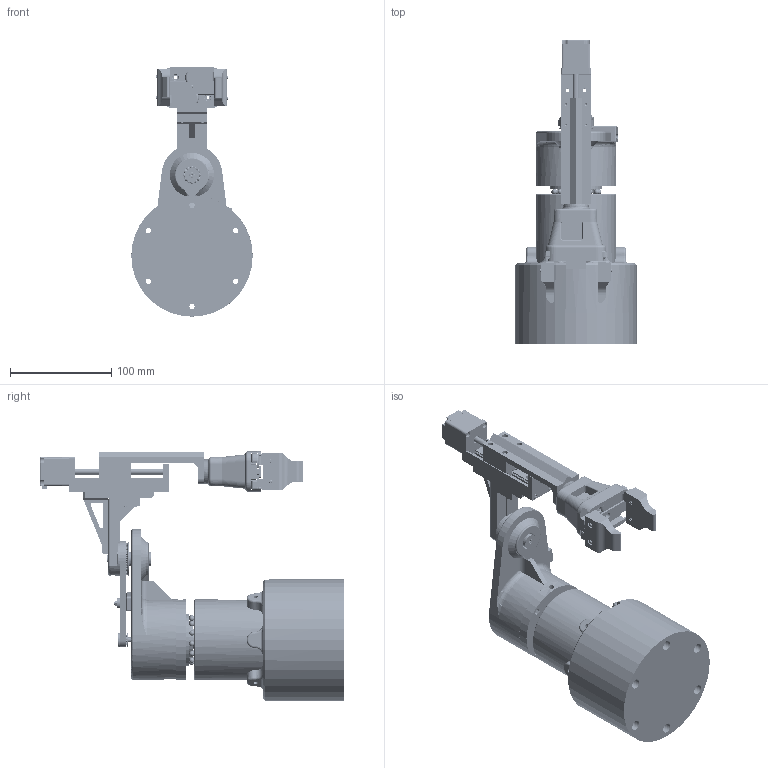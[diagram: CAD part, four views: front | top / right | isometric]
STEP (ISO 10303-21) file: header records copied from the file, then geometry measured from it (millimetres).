
FILE_DESCRIPTION(/* description */ (''),/* implementation_level */ '2;1');
FILE_NAME(/* name */ 'Assieme_scara_nema.stp',/* time_stamp */ '2025-12-08T08:28:22+01:00',/* author */ ('R5800u'),/* organization */ (''),/* preprocessor_version */ 'ST-DEVELOPER v20',/* originating_system */ 'Autodesk Inventor 2025',/* authorisation */ '');
FILE_SCHEMA (('AUTOMOTIVE_DESIGN { 1 0 10303 214 3 1 1 }'));
Products named in the file (61): Assieme_scara_nema; NEMA 17HS4401S-PG518; base_01; disco_120; ISO 104 - 1 11 35 x 52 x 12; piatto_sopra_base; blocco_nema2; blocco_esterno_base; GT2 16 Teeth Free Pulley; %3% BS 290 - SKF 608; NEMA 42SHDC3030Z; Parametric GT2 pulley v5; perno_8mm; tendi_cinghia; AS 1420 - 1973 - M3 x 14; %3% BS 290 - SKF 623; AS 1474 - M2,5; rinforzo; guida_lineare_50mm; profilato; profilato_cuscinetto; profilato_motore; Nema11; 00144585; 00144585_01; 00144585_02; 00144585_03; 00144585_04; 00144585_05; 00144585_06; 00144585_07; 00144585_08; 00144585_09; 00144585_10; 00144585_11; 00144585_12; 00144585_13; 00144585_14; Actuator_MGN9; AS 1420 - 1973 - M3 x 6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
Assembly tree (76 placements, depth 4):
  Assieme_scara_nema
    NEMA 17HS4401S-PG518
    base_01
    disco_120
    ISO 104 - 1 11 35 x 52 x 12
    piatto_sopra_base
    blocco_nema2
    blocco_esterno_base
    GT2 16 Teeth Free Pulley
    %3% BS 290 - SKF 608  x2
    NEMA 42SHDC3030Z
    Parametric GT2 pulley v5
    perno_8mm
    tendi_cinghia
    AS 1420 - 1973 - M3 x 14
    %3% BS 290 - SKF 623  x2
    AS 1474 - M2,5
    rinforzo
    guida_lineare_50mm
      profilato
      profilato_cuscinetto
      profilato_motore
      Nema11
      00144585
        00144585_01
        00144585_02
        00144585_03
        00144585_04
        00144585_05
        00144585_06
        00144585_07
        00144585_08
        00144585_09
        00144585_10
        00144585_11
        00144585_12
        00144585_13
        00144585_14
      Actuator_MGN9
      AS 1420 - 1973 - M3 x 6  x4
      Actuator_MGN9C
      Carriage
      AS 1420 - 1973 - M3 x 12  x4
    ANSI B18.3.1M - M3x0,5 x 12, FSHCSM  x2
    blocco_pinza
    ANSI B18.3.1M - M3x0,5 x 40, FSHCSM
    gripper
      gripper_rail_base
      gripper_finger  x2
      gripper_base_plate
      MG90S_assieme_disco_ldb2
        MG90_ldb
        scritta_MG90s  x2
      MG90S 9g Micro Servo Medium Horn 12 holes
      blocco_giunto_polso
      gripper_spur_gear v2
      dito1  x2
      AS 1420 - 1973 - M3 x 10  x5
      BS 4168 - M2,5 x 10
      AS 1427 - M2 x 12
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Bounding box: 120 x 299.9 x 246.35 mm (x, y, z)
Volume: 1777451.5 mm3; surface area: 358901.8 mm2
Topology: 89 solids, 91 shells, 5278 faces, 14082 edges, 9075 vertices
Faces by surface type: plane 3394, cylinder 1088, bspline 388, torus 211, cone 104, sphere 93
Full cylindrical faces by diameter (mm): 1.03 x6, 1.1 x16, 1.167 x3, 1.2 x2, 1.5 x2, 1.6 x4, 1.755 x1, 2 x3, 2.013 x1, 2.05 x4, 2.2 x1, 2.3 x4, 2.459 x6, 2.47 x1, 2.5 x11, 2.7 x3, 2.8 x4, 2.9 x5, 3 x38, 3.2 x47, 3.4 x31, 3.5 x5, 4 x1, 4.3 x6, 4.5 x1, 4.68 x8, 4.69 x1, 4.8 x1, 5 x8, 5.24 x4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
Entity records: 212034 total; most frequent: CARTESIAN_POINT 88563, ORIENTED_EDGE 25056, DIRECTION 23642, EDGE_CURVE 12528, LINE 8376, VECTOR 8376, VERTEX_POINT 8102, AXIS2_PLACEMENT_3D 7633
